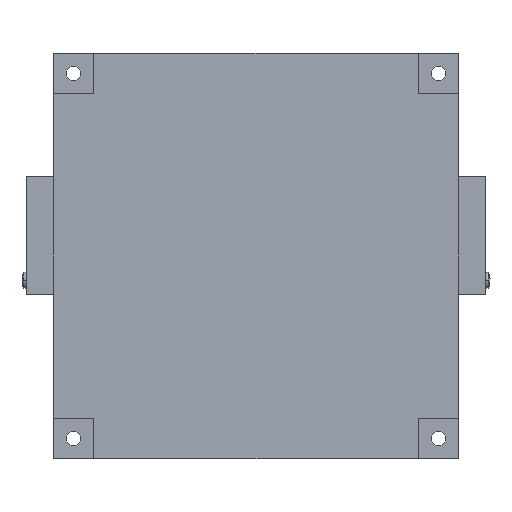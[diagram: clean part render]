
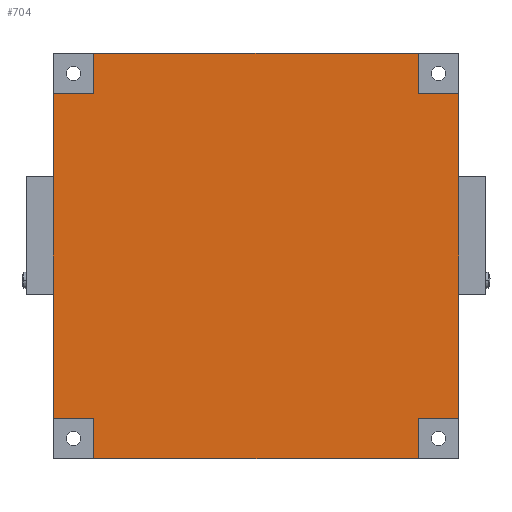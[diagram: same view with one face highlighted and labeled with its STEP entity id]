
A CAD part, front view. The second image highlights one B-rep face of the part: STEP entity #704.
In plain terms, the highlighted planar face has unit normal (0, -1, 0).
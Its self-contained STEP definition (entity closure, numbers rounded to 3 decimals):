
#114 = EDGE_CURVE ( 'NONE', #4771, #4727, #9251, .T. ) ;
#158 = EDGE_CURVE ( 'NONE', #4866, #4874, #9190, .T. ) ;
#205 = EDGE_CURVE ( 'NONE', #317, #206, #9100, .T. ) ;
#206 = VERTEX_POINT ( 'NONE', #9096 ) ;
#314 = VERTEX_POINT ( 'NONE', #9499 ) ;
#316 = EDGE_CURVE ( 'NONE', #314, #317, #9498, .T. ) ;
#317 = VERTEX_POINT ( 'NONE', #9494 ) ;
#699 = VERTEX_POINT ( 'NONE', #9864 ) ;
#701 = EDGE_CURVE ( 'NONE', #699, #314, #9863, .T. ) ;
#704 = ADVANCED_FACE ( 'NONE', ( #9859 ), #9858, .F. ) ;
#705 = EDGE_LOOP ( 'NONE', ( #706, #707, #708, #709, #712, #729, #731, #732, #733, #734, #735, #736 ) ) ;
#706 = ORIENTED_EDGE ( 'NONE', *, *, #715, .F. ) ;
#707 = ORIENTED_EDGE ( 'NONE', *, *, #205, .F. ) ;
#708 = ORIENTED_EDGE ( 'NONE', *, *, #316, .F. ) ;
#709 = ORIENTED_EDGE ( 'NONE', *, *, #701, .F. ) ;
#712 = ORIENTED_EDGE ( 'NONE', *, *, #713, .F. ) ;
#713 = EDGE_CURVE ( 'NONE', #714, #699, #10206, .T. ) ;
#714 = VERTEX_POINT ( 'NONE', #10202 ) ;
#715 = EDGE_CURVE ( 'NONE', #206, #4851, #10201, .T. ) ;
#729 = ORIENTED_EDGE ( 'NONE', *, *, #730, .F. ) ;
#730 = EDGE_CURVE ( 'NONE', #4730, #714, #10372, .T. ) ;
#731 = ORIENTED_EDGE ( 'NONE', *, *, #4729, .F. ) ;
#732 = ORIENTED_EDGE ( 'NONE', *, *, #114, .F. ) ;
#733 = ORIENTED_EDGE ( 'NONE', *, *, #4770, .F. ) ;
#734 = ORIENTED_EDGE ( 'NONE', *, *, #4876, .F. ) ;
#735 = ORIENTED_EDGE ( 'NONE', *, *, #158, .F. ) ;
#736 = ORIENTED_EDGE ( 'NONE', *, *, #4865, .F. ) ;
#4727 = VERTEX_POINT ( 'NONE', #18355 ) ;
#4729 = EDGE_CURVE ( 'NONE', #4727, #4730, #18455, .T. ) ;
#4730 = VERTEX_POINT ( 'NONE', #18451 ) ;
#4770 = EDGE_CURVE ( 'NONE', #4877, #4771, #18421, .T. ) ;
#4771 = VERTEX_POINT ( 'NONE', #18417 ) ;
#4851 = VERTEX_POINT ( 'NONE', #18751 ) ;
#4865 = EDGE_CURVE ( 'NONE', #4851, #4866, #18534, .T. ) ;
#4866 = VERTEX_POINT ( 'NONE', #18530 ) ;
#4874 = VERTEX_POINT ( 'NONE', #18602 ) ;
#4876 = EDGE_CURVE ( 'NONE', #4874, #4877, #18601, .T. ) ;
#4877 = VERTEX_POINT ( 'NONE', #18597 ) ;
#9096 = CARTESIAN_POINT ( 'NONE',  ( -80., 0.5, -100. ) ) ;
#9097 = DIRECTION ( 'NONE',  ( -1., 0., 0. ) ) ;
#9098 = VECTOR ( 'NONE', #9097, 1000. ) ;
#9099 = CARTESIAN_POINT ( 'NONE',  ( -80., 0.5, -100. ) ) ;
#9100 = LINE ( 'NONE', #9099, #9098 ) ;
#9187 = DIRECTION ( 'NONE',  ( 0., 0., 1. ) ) ;
#9188 = VECTOR ( 'NONE', #9187, 1000. ) ;
#9189 = CARTESIAN_POINT ( 'NONE',  ( -100., 0.5, -80. ) ) ;
#9190 = LINE ( 'NONE', #9189, #9188 ) ;
#9248 = DIRECTION ( 'NONE',  ( 1., 0., 0. ) ) ;
#9249 = VECTOR ( 'NONE', #9248, 1000. ) ;
#9250 = CARTESIAN_POINT ( 'NONE',  ( -80., 0.5, 100. ) ) ;
#9251 = LINE ( 'NONE', #9250, #9249 ) ;
#9494 = CARTESIAN_POINT ( 'NONE',  ( 80., 0.5, -100. ) ) ;
#9495 = DIRECTION ( 'NONE',  ( 0., 0., -1. ) ) ;
#9496 = VECTOR ( 'NONE', #9495, 1000. ) ;
#9497 = CARTESIAN_POINT ( 'NONE',  ( 80., 0.5, -100. ) ) ;
#9498 = LINE ( 'NONE', #9497, #9496 ) ;
#9499 = CARTESIAN_POINT ( 'NONE',  ( 80., 0.5, -80. ) ) ;
#9854 = DIRECTION ( 'NONE',  ( 0., 0., 1. ) ) ;
#9855 = DIRECTION ( 'NONE',  ( 0., 1., 0. ) ) ;
#9856 = CARTESIAN_POINT ( 'NONE',  ( -80., 0.5, -80. ) ) ;
#9857 = AXIS2_PLACEMENT_3D ( 'NONE', #9856, #9855, #9854 ) ;
#9858 = PLANE ( 'NONE',  #9857 ) ;
#9859 = FACE_OUTER_BOUND ( 'NONE', #705, .T. ) ;
#9860 = DIRECTION ( 'NONE',  ( -1., 0., 0. ) ) ;
#9861 = VECTOR ( 'NONE', #9860, 1000. ) ;
#9862 = CARTESIAN_POINT ( 'NONE',  ( 80., 0.5, -80. ) ) ;
#9863 = LINE ( 'NONE', #9862, #9861 ) ;
#9864 = CARTESIAN_POINT ( 'NONE',  ( 100., 0.5, -80. ) ) ;
#10198 = DIRECTION ( 'NONE',  ( 0., 0., 1. ) ) ;
#10199 = VECTOR ( 'NONE', #10198, 1000. ) ;
#10200 = CARTESIAN_POINT ( 'NONE',  ( -80., 0.5, -100. ) ) ;
#10201 = LINE ( 'NONE', #10200, #10199 ) ;
#10202 = CARTESIAN_POINT ( 'NONE',  ( 100., 0.5, 80. ) ) ;
#10203 = DIRECTION ( 'NONE',  ( 0., 0., -1. ) ) ;
#10204 = VECTOR ( 'NONE', #10203, 1000. ) ;
#10205 = CARTESIAN_POINT ( 'NONE',  ( 100., 0.5, -80. ) ) ;
#10206 = LINE ( 'NONE', #10205, #10204 ) ;
#10369 = DIRECTION ( 'NONE',  ( 1., 0., 0. ) ) ;
#10370 = VECTOR ( 'NONE', #10369, 1000. ) ;
#10371 = CARTESIAN_POINT ( 'NONE',  ( 80., 0.5, 80. ) ) ;
#10372 = LINE ( 'NONE', #10371, #10370 ) ;
#18355 = CARTESIAN_POINT ( 'NONE',  ( 80., 0.5, 100. ) ) ;
#18417 = CARTESIAN_POINT ( 'NONE',  ( -80., 0.5, 100. ) ) ;
#18418 = DIRECTION ( 'NONE',  ( 0., 0., 1. ) ) ;
#18419 = VECTOR ( 'NONE', #18418, 1000. ) ;
#18420 = CARTESIAN_POINT ( 'NONE',  ( -80., 0.5, 80. ) ) ;
#18421 = LINE ( 'NONE', #18420, #18419 ) ;
#18451 = CARTESIAN_POINT ( 'NONE',  ( 80., 0.5, 80. ) ) ;
#18452 = DIRECTION ( 'NONE',  ( 0., 0., -1. ) ) ;
#18453 = VECTOR ( 'NONE', #18452, 1000. ) ;
#18454 = CARTESIAN_POINT ( 'NONE',  ( 80., 0.5, 80. ) ) ;
#18455 = LINE ( 'NONE', #18454, #18453 ) ;
#18530 = CARTESIAN_POINT ( 'NONE',  ( -100., 0.5, -80. ) ) ;
#18531 = DIRECTION ( 'NONE',  ( -1., 0., 0. ) ) ;
#18532 = VECTOR ( 'NONE', #18531, 1000. ) ;
#18533 = CARTESIAN_POINT ( 'NONE',  ( -100., 0.5, -80. ) ) ;
#18534 = LINE ( 'NONE', #18533, #18532 ) ;
#18597 = CARTESIAN_POINT ( 'NONE',  ( -80., 0.5, 80. ) ) ;
#18598 = DIRECTION ( 'NONE',  ( 1., 0., 0. ) ) ;
#18599 = VECTOR ( 'NONE', #18598, 1000. ) ;
#18600 = CARTESIAN_POINT ( 'NONE',  ( -100., 0.5, 80. ) ) ;
#18601 = LINE ( 'NONE', #18600, #18599 ) ;
#18602 = CARTESIAN_POINT ( 'NONE',  ( -100., 0.5, 80. ) ) ;
#18751 = CARTESIAN_POINT ( 'NONE',  ( -80., 0.5, -80. ) ) ;
